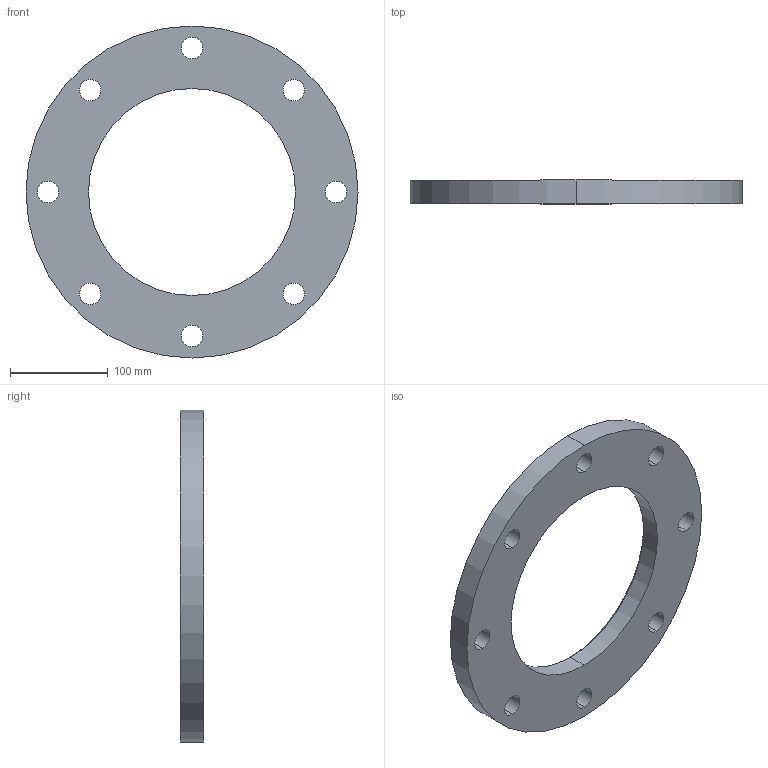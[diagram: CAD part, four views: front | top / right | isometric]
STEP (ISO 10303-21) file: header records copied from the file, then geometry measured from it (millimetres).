
FILE_DESCRIPTION (( 'STEP AP203' ), '1' );
FILE_NAME ('3D_R189_PN10_DN204_17669360.STEP', '2024-08-12T10:56:01', ( '' ), ( '' ), 'SwSTEP 2.0', 'SolidWorks 2024', '' );
FILE_SCHEMA (( 'CONFIG_CONTROL_DESIGN' ));
Length unit declared in the file: millimetre
Products named in the file (1): 3D_R189_PN10_DN204_17669360
Bounding box: 340 x 24 x 340 mm (x, y, z)
Volume: 1253453.6 mm3; surface area: 158254.2 mm2
Topology: 1 solids, 1 shells, 24 faces, 64 edges, 42 vertices
Faces by surface type: cylinder 20, cone 2, plane 2
Entity records: 887 total; most frequent: DIRECTION 156, CARTESIAN_POINT 131, ORIENTED_EDGE 128, AXIS2_PLACEMENT_3D 67, EDGE_CURVE 64, EDGE_LOOP 42, VERTEX_POINT 42, CIRCLE 42
